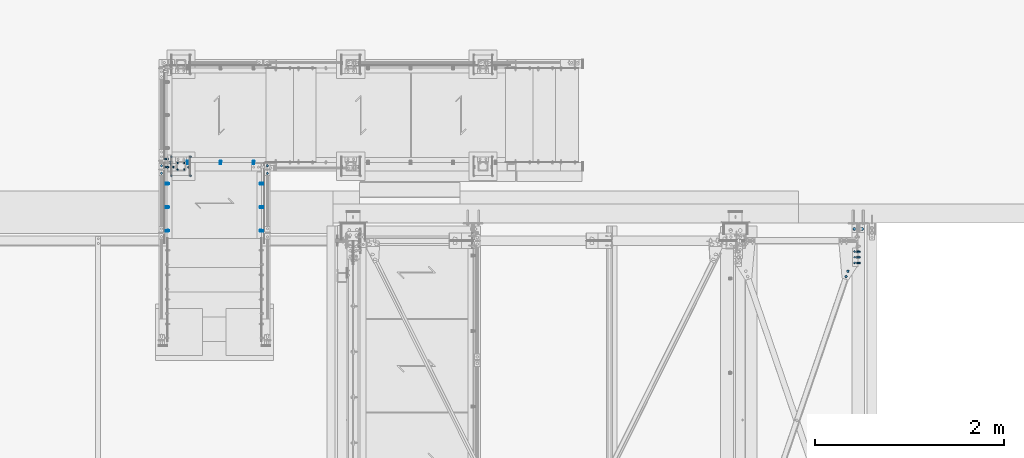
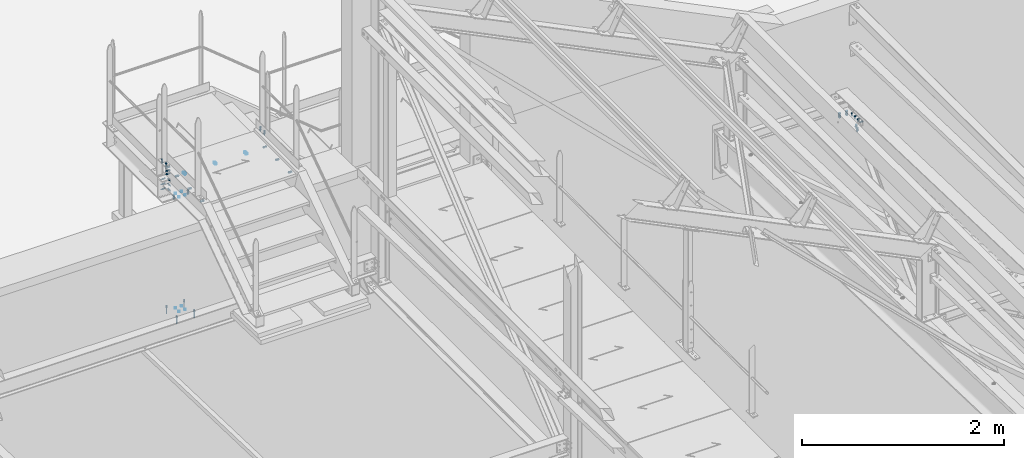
# One storey, part 198 of 362: 16 mechanical fasteners.
"""IFC2X3 building model written with IfcOpenShell, lengths in millimetres."""

from ifc_helpers import new_model, si_unit, frame, frame_2d, origin_with_axes, origin_2d_with_axis, place, context, subcontext, project, spatial, polyline, circle_curve, parameter, trimmed, segment, composite_curve, circle, outline, extrude, source, transform, mapped, material, type_object, element, save


model = new_model("IFC2X3")

# Units and contexts
model_context = context("Model", 3, precision=1e-05, world=origin_with_axes())
body_context = subcontext(model_context, "Body", "Model", "MODEL_VIEW")
ifc_project = project(units=[si_unit("LENGTHUNIT", "METRE", prefix="MILLI"), si_unit("AREAUNIT", "SQUARE_METRE"), si_unit("VOLUMEUNIT", "CUBIC_METRE"), si_unit("MASSUNIT", "GRAM", prefix="KILO"), si_unit("TIMEUNIT", "SECOND"), si_unit("PLANEANGLEUNIT", "RADIAN"), si_unit("SOLIDANGLEUNIT", "STERADIAN"), si_unit("THERMODYNAMICTEMPERATUREUNIT", "DEGREE_CELSIUS"), si_unit("LUMINOUSINTENSITYUNIT", "LUMEN")], contexts=[model_context])

# Site, building, storey
site_placement = place(None, origin_with_axes())
site = spatial("IfcSite", under=ifc_project, at=site_placement, Name="Undefined", CompositionType="ELEMENT")
building_placement = place(site_placement, origin_with_axes())
building = spatial("IfcBuilding", under=site, at=building_placement, Name="Undefined", CompositionType="ELEMENT")
storey_placement = place(building_placement, origin_with_axes())
storey = spatial("IfcBuildingStorey", under=building, at=storey_placement, Name="Undefined", CompositionType="ELEMENT", Elevation=0.0)

# Mechanical fasteners
ifc_material_1 = material(Name="6.8")
mechanical_fastener_type = type_object("IfcMechanicalFastenerType", Name="Bolt assembly")
shared_shape_1 = source(origin_with_axes(), body_context, "Body", "SweptSolid", [
    extrude(circle(Radius=7.0, at=origin_2d_with_axis()), frame((0.0, -12.0, 0.0), z_axis=(0.0, 1.0, 0.0), x_axis=(1.0, 0.0, 0.0)), (0.0, 0.0, 1.0), 12.1),
])
mechanical_fastener_1_placement = place(storey_placement, frame((32455.0000000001, 16024.9999136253, 7050.0), z_axis=(1.0, 0.0, 0.0), x_axis=(0.0, -1.0, 0.0)))
element("IfcMechanicalFastener", 1, at=mechanical_fastener_1_placement, inside=storey, type_object=mechanical_fastener_type, material=ifc_material_1, Name="Bolt assembly", NominalDiameter=12.0, NominalLength=12.0, context=body_context, shape_type="MappedRepresentation", body=[
    mapped(shared_shape_1, transform((0.0, 0.0, 35.0))),
    mapped(shared_shape_1, transform((70.0, 0.0, 35.0))),
    mapped(shared_shape_1, transform((0.0, 0.0, -35.0))),
    mapped(shared_shape_1, transform((70.0, 0.0, -35.0))),
])
ifc_material_2 = material(Name="HILTI-HSA-R")
shared_shape_2 = source(origin_with_axes(), body_context, "Body", "SweptSolid", [
    extrude(circle(Radius=7.0, at=origin_2d_with_axis()), frame((0.0, -12.0, 0.0), z_axis=(0.0, 1.0, 0.0), x_axis=(1.0, 0.0, 0.0)), (0.0, 0.0, 1.0), 12.1),
    extrude(outline(polyline([(10.39230484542, 0.0), (5.19615242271, 9.00000000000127), (-5.19615242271, 9.00000000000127), (-10.39230484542, 0.0), (-5.19615242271, -9.00000000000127), (5.19615242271, -9.00000000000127), (10.39230484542, 0.0)])), frame((0.0, -19.92, 0.0), z_axis=(0.0, 1.0, 0.0), x_axis=(1.0, 0.0, 0.0)), (0.0, 0.0, 1.0), 7.92),
    extrude(circle(Radius=6.0, at=origin_2d_with_axis()), frame((0.0, -12.0, 0.0), z_axis=(0.0, 1.0, 0.0), x_axis=(1.0, 0.0, 0.0)), (0.0, 0.0, 1.0), 89.2),
    extrude(outline(polyline([(11.5008173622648, 0.0), (5.7504086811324, 9.96000000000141), (-5.7504086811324, 9.96000000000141), (-11.5008173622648, 0.0), (-5.7504086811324, -9.96000000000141), (5.7504086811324, -9.96000000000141), (11.5008173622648, 0.0)])), frame((0.0, 0.0, 0.0), z_axis=(0.0, 1.0, 0.0), x_axis=(1.0, 0.0, 0.0)), (0.0, 0.0, 1.0), 7.92),
])
mechanical_fastener_2_placement = place(storey_placement, frame((32455.0000000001, 16089.9999136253, 7050.0), z_axis=(1.0, 0.0, 0.0), x_axis=(0.0, -1.0, 0.0)))
element("IfcMechanicalFastener", 2, at=mechanical_fastener_2_placement, inside=storey, type_object=mechanical_fastener_type, material=ifc_material_2, Name="Bolt assembly", NominalDiameter=12.0, NominalLength=89.1999969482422, context=body_context, shape_type="MappedRepresentation", body=[
    mapped(shared_shape_2, transform((0.0, 0.0, 100.0))),
    mapped(shared_shape_2, transform((200.0, 0.0, 100.0))),
    mapped(shared_shape_2, transform((0.0, 0.0, -100.0))),
    mapped(shared_shape_2, transform((200.0, 0.0, -100.0))),
])
ifc_material_3 = material(Name="8.8-SB-GALVA")
shared_shape_3 = source(origin_with_axes(), body_context, "Body", "SweptSolid", [
    extrude(circle(Radius=7.0, at=origin_2d_with_axis()), frame((0.0, -0.100011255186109, 0.0), z_axis=(0.0, 1.0, 0.0), x_axis=(1.0, 0.0, 0.0)), (0.0, 0.0, 1.0), 12.9),
    extrude(outline(composite_curve([segment(polyline([(-7.0, 7.0), (7.0, 7.0)]), True, "CONTINUOUS"), segment(trimmed(circle_curve(frame_2d((7.0, 0.0), x_axis=(0.0, 1.0)), 7.0), [parameter(0.0)], [parameter(3.14159265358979)], False, "PARAMETER"), True, "CONTINUOUS"), segment(polyline([(7.0, -7.0), (-7.0, -7.0)]), True, "CONTINUOUS"), segment(trimmed(circle_curve(frame_2d((-7.0, 0.0), x_axis=(0.0, -1.0)), 7.0), [parameter(0.0)], [parameter(3.14159265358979)], False, "PARAMETER"), True, "DISCONTINUOUS")], self_intersect=False)), frame((0.0, -9.9, 0.0), z_axis=(0.0, 1.0, 0.0), x_axis=(1.0, 0.0, 0.0)), (0.0, 0.0, 1.0), 10.0),
    extrude(outline(polyline([(10.39230484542, 0.0), (5.19615242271, 9.00000000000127), (-5.19615242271, 9.00000000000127), (-10.39230484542, 0.0), (-5.19615242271, -9.00000000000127), (5.19615242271, -9.00000000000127), (10.39230484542, 0.0)])), frame((0.0, -21.88, 0.0), z_axis=(0.0, 1.0, 0.0), x_axis=(1.0, 0.0, 0.0)), (0.0, 0.0, 1.0), 7.92),
    extrude(circle(Radius=6.0, at=origin_2d_with_axis()), frame((0.0, -13.96, 0.0), z_axis=(0.0, 1.0, 0.0), x_axis=(1.0, 0.0, 0.0)), (0.0, 0.0, 1.0), 50.0),
    extrude(circle(Radius=10.8, at=origin_2d_with_axis()), frame((0.0, -13.96, 0.0), z_axis=(0.0, 1.0, 0.0), x_axis=(1.0, 0.0, 0.0)), (0.0, 0.0, 1.0), 3.96),
    extrude(outline(polyline([(11.5008173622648, 0.0), (5.7504086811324, 9.96000000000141), (-5.7504086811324, 9.96000000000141), (-11.5008173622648, 0.0), (-5.7504086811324, -9.96000000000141), (5.7504086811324, -9.96000000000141), (11.5008173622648, 0.0)])), frame((0.0, 12.7987010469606, 0.0), z_axis=(0.0, 1.0, 0.0), x_axis=(1.0, 0.0, 0.0)), (0.0, 0.0, 1.0), 7.92),
])
mechanical_fastener_3_placement = place(storey_placement, frame((32249.9863365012, 15915.003622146, 8910.0), z_axis=(-1.0, 0.0, 0.0), x_axis=(0.0, 1.0, 0.0)))
element("IfcMechanicalFastener", 3, at=mechanical_fastener_3_placement, inside=storey, type_object=mechanical_fastener_type, material=ifc_material_3, Name="Bolt assembly", NominalDiameter=12.0, NominalLength=50.0, context=body_context, shape_type="MappedRepresentation", body=[
    mapped(shared_shape_3, transform((0.0, 0.0, 0.0))),
    mapped(shared_shape_3, transform((80.0, 0.0, 0.0))),
])
shared_shape_4 = source(origin_with_axes(), body_context, "Body", "SweptSolid", [
    extrude(circle(Radius=7.0, at=origin_2d_with_axis()), frame((0.0, -0.100011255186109, 0.0), z_axis=(0.0, 1.0, 0.0), x_axis=(1.0, 0.0, 0.0)), (0.0, 0.0, 1.0), 12.9),
    extrude(outline(composite_curve([segment(polyline([(-7.0, 7.0), (7.0, 7.0)]), True, "CONTINUOUS"), segment(trimmed(circle_curve(frame_2d((7.0, 0.0), x_axis=(0.0, 1.0)), 7.0), [parameter(0.0)], [parameter(3.14159265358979)], False, "PARAMETER"), True, "CONTINUOUS"), segment(polyline([(7.0, -7.0), (-7.0, -7.0)]), True, "CONTINUOUS"), segment(trimmed(circle_curve(frame_2d((-7.0, 0.0), x_axis=(0.0, -1.0)), 7.0), [parameter(0.0)], [parameter(3.14159265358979)], False, "PARAMETER"), True, "DISCONTINUOUS")], self_intersect=False)), frame((0.0, -9.9, 0.0), z_axis=(0.0, 1.0, 0.0), x_axis=(1.0, 0.0, 0.0)), (0.0, 0.0, 1.0), 10.0),
    extrude(outline(polyline([(10.39230484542, 0.0), (5.19615242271, 9.00000000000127), (-5.19615242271, 9.00000000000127), (-10.39230484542, 0.0), (-5.19615242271, -9.00000000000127), (5.19615242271, -9.00000000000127), (10.39230484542, 0.0)])), frame((0.0, -21.88, 0.0), z_axis=(0.0, 1.0, 0.0), x_axis=(1.0, 0.0, 0.0)), (0.0, 0.0, 1.0), 7.92),
    extrude(circle(Radius=6.0, at=origin_2d_with_axis()), frame((0.0, -13.96, 0.0), z_axis=(0.0, 1.0, 0.0), x_axis=(1.0, 0.0, 0.0)), (0.0, 0.0, 1.0), 50.0),
    extrude(circle(Radius=10.8, at=origin_2d_with_axis()), frame((0.0, -13.96, 0.0), z_axis=(0.0, 1.0, 0.0), x_axis=(1.0, 0.0, 0.0)), (0.0, 0.0, 1.0), 3.96),
    extrude(outline(polyline([(11.5008173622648, 0.0), (5.7504086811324, 9.96000000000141), (-5.7504086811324, 9.96000000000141), (-11.5008173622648, 0.0), (-5.7504086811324, -9.96000000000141), (5.7504086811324, -9.96000000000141), (11.5008173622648, 0.0)])), frame((0.0, 12.8009436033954, 0.0), z_axis=(0.0, 1.0, 0.0), x_axis=(1.0, 0.0, 0.0)), (0.0, 0.0, 1.0), 7.92),
])
mechanical_fastener_4_placement = place(storey_placement, frame((33369.9936634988, 15914.9996684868, 8910.0), z_axis=(-1.0, 0.0, 0.0), x_axis=(0.0, 1.0, 0.0)))
element("IfcMechanicalFastener", 4, at=mechanical_fastener_4_placement, inside=storey, type_object=mechanical_fastener_type, material=ifc_material_3, Name="Bolt assembly", NominalDiameter=12.0, NominalLength=50.0, context=body_context, shape_type="MappedRepresentation", body=[
    mapped(shared_shape_4, transform((0.0, 0.0, 0.0))),
    mapped(shared_shape_4, transform((80.0, 0.0, 0.0))),
])
shared_shape_5 = source(origin_with_axes(), body_context, "Body", "SweptSolid", [
    extrude(circle(Radius=7.0, at=origin_2d_with_axis()), frame((0.0, 0.0, 0.0), z_axis=(0.0, 1.0, 0.0), x_axis=(1.0, 0.0, 0.0)), (0.0, 0.0, 1.0), 8.1),
])
mechanical_fastener_5_placement = place(storey_placement, frame((32455.0000000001, 16024.9999136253, 8440.00011661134), z_axis=(1.0, 0.0, 0.0), x_axis=(0.0, -1.0, 0.0)))
element("IfcMechanicalFastener", 5, at=mechanical_fastener_5_placement, inside=storey, type_object=mechanical_fastener_type, material=ifc_material_1, Name="Bolt assembly", NominalDiameter=12.0, NominalLength=8.0, context=body_context, shape_type="MappedRepresentation", body=[
    mapped(shared_shape_5, transform((0.0, 0.0, 35.0))),
    mapped(shared_shape_5, transform((70.0, 0.0, 35.0))),
    mapped(shared_shape_5, transform((0.0, 0.0, -35.0))),
    mapped(shared_shape_5, transform((70.0, 0.0, -35.0))),
])
shared_shape_6 = source(origin_with_axes(), body_context, "Body", "SweptSolid", [
    extrude(circle(Radius=7.0, at=origin_2d_with_axis()), frame((0.0, -0.0998569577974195, 0.0), z_axis=(0.0, 1.0, 0.0), x_axis=(1.0, 0.0, 0.0)), (0.0, 0.0, 1.0), 10.1),
    extrude(circle(Radius=7.0, at=origin_2d_with_axis()), frame((0.0, -5.8999542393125, 0.0), z_axis=(0.0, 1.0, 0.0), x_axis=(1.0, 0.0, 0.0)), (0.0, 0.0, 1.0), 6.0),
    extrude(outline(polyline([(10.39230484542, 0.0), (5.19615242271, 9.00000000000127), (-5.19615242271, 9.00000000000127), (-10.39230484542, 0.0), (-5.19615242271, -9.00000000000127), (5.19615242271, -9.00000000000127), (10.39230484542, 0.0)])), frame((0.0, -13.9199542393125, 0.0), z_axis=(0.0, 1.0, 0.0), x_axis=(1.0, 0.0, 0.0)), (0.0, 0.0, 1.0), 7.92),
    extrude(circle(Radius=6.0, at=origin_2d_with_axis()), frame((0.0, -5.9999542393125, 0.0), z_axis=(0.0, 1.0, 0.0), x_axis=(1.0, 0.0, 0.0)), (0.0, 0.0, 1.0), 40.0),
    extrude(outline(polyline([(11.5008173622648, 0.0), (5.7504086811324, 9.96000000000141), (-5.7504086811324, 9.96000000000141), (-11.5008173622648, 0.0), (-5.7504086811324, -9.96000000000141), (5.7504086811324, -9.96000000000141), (11.5008173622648, 0.0)])), frame((0.0, 10.0001873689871, 0.0), z_axis=(0.0, 1.0, 0.0), x_axis=(1.0, 0.0, 0.0)), (0.0, 0.0, 1.0), 7.92),
])
mechanical_fastener_6_placement = place(storey_placement, frame((32310.0061849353, 16064.9933714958, 8570.0), z_axis=(0.0, 0.0, -1.0), x_axis=(0.0, -1.0, 0.0)))
element("IfcMechanicalFastener", 6, at=mechanical_fastener_6_placement, inside=storey, type_object=mechanical_fastener_type, material=ifc_material_3, Name="Bolt assembly", NominalDiameter=12.0, NominalLength=40.0, context=body_context, shape_type="MappedRepresentation", body=[
    mapped(shared_shape_6, transform((0.0, 0.0, -60.0))),
    mapped(shared_shape_6, transform((0.0, 0.0, 0.0))),
    mapped(shared_shape_6, transform((0.0, 0.0, 60.0))),
])
shared_shape_7 = source(origin_with_axes(), body_context, "Body", "SweptSolid", [
    extrude(circle(Radius=7.0, at=origin_2d_with_axis()), frame((0.0, -14.9176290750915, 0.0), z_axis=(0.0, 1.0, 0.0), x_axis=(1.0, 0.0, 0.0)), (0.0, 0.0, 1.0), 10.0),
    extrude(circle(Radius=7.0, at=origin_2d_with_axis()), frame((0.0, -5.09380520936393, 0.0), z_axis=(0.0, 1.0, 0.0), x_axis=(1.0, 0.0, 0.0)), (0.0, 0.0, 1.0), 5.1),
    extrude(outline(polyline([(10.39230484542, 0.0), (5.19615242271, 9.00000000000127), (-5.19615242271, 9.00000000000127), (-10.39230484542, 0.0), (-5.19615242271, -9.00000000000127), (5.19615242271, -9.00000000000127), (10.39230484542, 0.0)])), frame((0.0, -22.9376290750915, 0.0), z_axis=(0.0, 1.0, 0.0), x_axis=(1.0, 0.0, 0.0)), (0.0, 0.0, 1.0), 7.92),
    extrude(circle(Radius=6.0, at=origin_2d_with_axis()), frame((0.0, -15.0176290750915, 0.0), z_axis=(0.0, 1.0, 0.0), x_axis=(1.0, 0.0, 0.0)), (0.0, 0.0, 1.0), 30.0),
    extrude(outline(polyline([(11.5008173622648, 0.0), (5.7504086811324, 9.96000000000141), (-5.7504086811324, 9.96000000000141), (-11.5008173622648, 0.0), (-5.7504086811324, -9.96000000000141), (5.7504086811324, -9.96000000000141), (11.5008173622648, 0.0)])), frame((0.0, 0.00619479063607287, 0.0), z_axis=(0.0, 1.0, 0.0), x_axis=(1.0, 0.0, 0.0)), (0.0, 0.0, 1.0), 7.92),
])
mechanical_fastener_7_placement = place(storey_placement, frame((33304.9876275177, 15555.0058468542, 8820.0), z_axis=(0.0, -1.0, 0.0), x_axis=(0.0, 0.0, 1.0)))
element("IfcMechanicalFastener", 7, at=mechanical_fastener_7_placement, inside=storey, type_object=mechanical_fastener_type, material=ifc_material_3, Name="Bolt assembly", NominalDiameter=12.0, NominalLength=30.0, context=body_context, shape_type="MappedRepresentation", body=[
    mapped(shared_shape_7, transform((0.0, 0.0, -250.0))),
    mapped(shared_shape_7, transform((0.0, 0.0, 0.0))),
    mapped(shared_shape_7, transform((0.0, 0.0, 250.0))),
])
shared_shape_8 = source(origin_with_axes(), body_context, "Body", "SweptSolid", [
    extrude(circle(Radius=7.0, at=origin_2d_with_axis()), frame((0.0, -14.8962968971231, 0.0), z_axis=(0.0, 1.0, 0.0), x_axis=(1.0, 0.0, 0.0)), (0.0, 0.0, 1.0), 10.0),
    extrude(circle(Radius=7.0, at=origin_2d_with_axis()), frame((0.0, -5.09380520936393, 0.0), z_axis=(0.0, 1.0, 0.0), x_axis=(1.0, 0.0, 0.0)), (0.0, 0.0, 1.0), 5.1),
    extrude(outline(polyline([(10.39230484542, 0.0), (5.19615242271, 9.00000000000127), (-5.19615242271, 9.00000000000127), (-10.39230484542, 0.0), (-5.19615242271, -9.00000000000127), (5.19615242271, -9.00000000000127), (10.39230484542, 0.0)])), frame((0.0, -22.9162968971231, 0.0), z_axis=(0.0, 1.0, 0.0), x_axis=(1.0, 0.0, 0.0)), (0.0, 0.0, 1.0), 7.92),
    extrude(circle(Radius=6.0, at=origin_2d_with_axis()), frame((0.0, -14.9962968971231, 0.0), z_axis=(0.0, 1.0, 0.0), x_axis=(1.0, 0.0, 0.0)), (0.0, 0.0, 1.0), 30.0),
    extrude(outline(polyline([(11.5008173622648, 0.0), (5.7504086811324, 9.96000000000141), (-5.7504086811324, 9.96000000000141), (-11.5008173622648, 0.0), (-5.7504086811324, -9.96000000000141), (5.7504086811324, -9.96000000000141), (11.5008173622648, 0.0)])), frame((0.0, 0.00619479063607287, 0.0), z_axis=(0.0, 1.0, 0.0), x_axis=(1.0, 0.0, 0.0)), (0.0, 0.0, 1.0), 7.92),
])
mechanical_fastener_8_placement = place(storey_placement, frame((32314.9999903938, 15555.0058468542, 8820.0), z_axis=(0.0, 1.0, 0.0), x_axis=(0.0, 0.0, 1.0)))
element("IfcMechanicalFastener", 8, at=mechanical_fastener_8_placement, inside=storey, type_object=mechanical_fastener_type, material=ifc_material_3, Name="Bolt assembly", NominalDiameter=12.0, NominalLength=30.0, context=body_context, shape_type="MappedRepresentation", body=[
    mapped(shared_shape_8, transform((0.0, 0.0, -250.0))),
    mapped(shared_shape_8, transform((0.0, 0.0, 0.0))),
    mapped(shared_shape_8, transform((0.0, 0.0, 250.0))),
])
shared_shape_9 = source(origin_with_axes(), body_context, "Body", "SweptSolid", [
    extrude(circle(Radius=7.0, at=origin_2d_with_axis()), frame((0.0, -13.4994974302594, 0.0), z_axis=(0.0, 1.0, 0.0), x_axis=(1.0, 0.0, 0.0)), (0.0, 0.0, 1.0), 13.6),
    extrude(circle(Radius=7.0, at=origin_2d_with_axis()), frame((0.0, -0.10007666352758, 0.0), z_axis=(0.0, 1.0, 0.0), x_axis=(1.0, 0.0, 0.0)), (0.0, 0.0, 1.0), 8.1),
    extrude(outline(polyline([(10.39230484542, 0.0), (5.19615242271, 9.00000000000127), (-5.19615242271, 9.00000000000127), (-10.39230484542, 0.0), (-5.19615242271, -9.00000000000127), (5.19615242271, -9.00000000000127), (10.39230484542, 0.0)])), frame((0.0, -21.5194974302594, 0.0), z_axis=(0.0, 1.0, 0.0), x_axis=(1.0, 0.0, 0.0)), (0.0, 0.0, 1.0), 7.92),
    extrude(circle(Radius=6.0, at=origin_2d_with_axis()), frame((0.0, -13.5994974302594, 0.0), z_axis=(0.0, 1.0, 0.0), x_axis=(1.0, 0.0, 0.0)), (0.0, 0.0, 1.0), 40.0),
    extrude(outline(polyline([(11.5008173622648, 0.0), (5.7504086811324, 9.96000000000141), (-5.7504086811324, 9.96000000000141), (-11.5008173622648, 0.0), (-5.7504086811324, -9.96000000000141), (5.7504086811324, -9.96000000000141), (11.5008173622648, 0.0)])), frame((0.0, 7.99992914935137, 0.0), z_axis=(0.0, 1.0, 0.0), x_axis=(1.0, 0.0, 0.0)), (0.0, 0.0, 1.0), 7.92),
])
mechanical_fastener_9_placement = place(storey_placement, frame((32455.0000000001, 15979.9999136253, 8440.00004576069), z_axis=(-1.0, 0.0, 0.0), x_axis=(0.0, 1.0, 0.0)))
element("IfcMechanicalFastener", 9, at=mechanical_fastener_9_placement, inside=storey, type_object=mechanical_fastener_type, material=ifc_material_3, Name="Bolt assembly", NominalDiameter=12.0, NominalLength=40.0, context=body_context, shape_type="MappedRepresentation", body=[
    mapped(shared_shape_9, transform((0.0, 0.0, 80.0))),
    mapped(shared_shape_9, transform((0.0, 0.0, -80.0))),
])
shared_shape_10 = source(origin_with_axes(), body_context, "Body", "SweptSolid", [
    extrude(circle(Radius=7.0, at=origin_2d_with_axis()), frame((0.0, -9.90063770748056, 0.0), z_axis=(0.0, 1.0, 0.0), x_axis=(1.0, 0.0, 0.0)), (0.0, 0.0, 1.0), 10.0),
    extrude(circle(Radius=7.0, at=origin_2d_with_axis()), frame((0.0, -0.100011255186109, 0.0), z_axis=(0.0, 1.0, 0.0), x_axis=(1.0, 0.0, 0.0)), (0.0, 0.0, 1.0), 5.1),
    extrude(outline(polyline([(10.39230484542, 0.0), (5.19615242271, 9.00000000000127), (-5.19615242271, 9.00000000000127), (-10.39230484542, 0.0), (-5.19615242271, -9.00000000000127), (5.19615242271, -9.00000000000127), (10.39230484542, 0.0)])), frame((0.0, -17.9206377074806, 0.0), z_axis=(0.0, 1.0, 0.0), x_axis=(1.0, 0.0, 0.0)), (0.0, 0.0, 1.0), 7.92),
    extrude(circle(Radius=6.0, at=origin_2d_with_axis()), frame((0.0, -10.0006377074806, 0.0), z_axis=(0.0, 1.0, 0.0), x_axis=(1.0, 0.0, 0.0)), (0.0, 0.0, 1.0), 30.0),
    extrude(outline(polyline([(11.5008173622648, 0.0), (5.7504086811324, 9.96000000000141), (-5.7504086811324, 9.96000000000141), (-11.5008173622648, 0.0), (-5.7504086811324, -9.96000000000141), (5.7504086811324, -9.96000000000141), (11.5008173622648, 0.0)])), frame((0.0, 5.0, 0.0), z_axis=(0.0, 1.0, 0.0), x_axis=(1.0, 0.0, 0.0)), (0.0, 0.0, 1.0), 7.92),
])
mechanical_fastener_10_placement = place(storey_placement, frame((32875.0003754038, 16030.0062102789, 8640.0), z_axis=(-1.0, 0.0, 0.0), x_axis=(0.0, 0.0, 1.0)))
element("IfcMechanicalFastener", 10, at=mechanical_fastener_10_placement, inside=storey, type_object=mechanical_fastener_type, material=ifc_material_3, Name="Bolt assembly", NominalDiameter=12.0, NominalLength=30.0, context=body_context, shape_type="MappedRepresentation", body=[
    mapped(shared_shape_10, transform((0.0, 0.0, 350.0))),
    mapped(shared_shape_10, transform((0.0, 0.0, 0.0))),
    mapped(shared_shape_10, transform((0.0, 0.0, -350.0))),
])
shared_shape_11 = source(origin_with_axes(), body_context, "Body", "SweptSolid", [
    extrude(circle(Radius=7.0, at=origin_2d_with_axis()), frame((0.0, -0.0962673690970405, 0.0), z_axis=(0.0, 1.0, 0.0), x_axis=(1.0, 0.0, 0.0)), (0.0, 0.0, 1.0), 10.1),
    extrude(outline(composite_curve([segment(polyline([(7.0, 7.0), (7.0, -7.0)]), True, "CONTINUOUS"), segment(trimmed(circle_curve(frame_2d((0.0, -7.0), x_axis=(1.0, 0.0)), 7.0), [parameter(0.0)], [parameter(3.14159265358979)], False, "PARAMETER"), True, "CONTINUOUS"), segment(polyline([(-7.0, -7.0), (-7.0, 7.0)]), True, "CONTINUOUS"), segment(trimmed(circle_curve(frame_2d((0.0, 7.0), x_axis=(-1.0, 0.0)), 7.0), [parameter(0.0)], [parameter(3.14159265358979)], False, "PARAMETER"), True, "DISCONTINUOUS")], self_intersect=False)), frame((0.0, -7.9, 0.0), z_axis=(0.0, 1.0, 0.0), x_axis=(1.0, 0.0, 0.0)), (0.0, 0.0, 1.0), 8.0),
    extrude(outline(polyline([(10.39230484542, 0.0), (5.19615242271, 9.00000000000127), (-5.19615242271, 9.00000000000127), (-10.39230484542, 0.0), (-5.19615242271, -9.00000000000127), (5.19615242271, -9.00000000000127), (10.39230484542, 0.0)])), frame((0.0, -19.88, 0.0), z_axis=(0.0, 1.0, 0.0), x_axis=(1.0, 0.0, 0.0)), (0.0, 0.0, 1.0), 7.92),
    extrude(circle(Radius=6.0, at=origin_2d_with_axis()), frame((0.0, -11.96, 0.0), z_axis=(0.0, 1.0, 0.0), x_axis=(1.0, 0.0, 0.0)), (0.0, 0.0, 1.0), 40.0),
    extrude(circle(Radius=10.8, at=origin_2d_with_axis()), frame((0.0, -11.96, 0.0), z_axis=(0.0, 1.0, 0.0), x_axis=(1.0, 0.0, 0.0)), (0.0, 0.0, 1.0), 3.96),
    extrude(outline(polyline([(11.5008173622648, 0.0), (5.7504086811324, 9.96000000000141), (-5.7504086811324, 9.96000000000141), (-11.5008173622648, 0.0), (-5.7504086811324, -9.96000000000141), (5.7504086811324, -9.96000000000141), (11.5008173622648, 0.0)])), frame((0.0, 10.0037326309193, 0.0), z_axis=(0.0, 1.0, 0.0), x_axis=(1.0, 0.0, 0.0)), (0.0, 0.0, 1.0), 7.92),
])
mechanical_fastener_11_placement = place(storey_placement, frame((32310.006186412, 15980.0058471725, 8820.0), z_axis=(0.0, 1.0, 0.0), x_axis=(0.0, 0.0, -1.0)))
element("IfcMechanicalFastener", 11, at=mechanical_fastener_11_placement, inside=storey, type_object=mechanical_fastener_type, material=ifc_material_3, Name="Bolt assembly", NominalDiameter=12.0, NominalLength=40.0, context=body_context, shape_type="MappedRepresentation", body=[
    mapped(shared_shape_11, transform((0.0, 0.0, 0.0))),
    mapped(shared_shape_11, transform((40.0, 0.0, 0.0))),
    mapped(shared_shape_11, transform((80.0, 0.0, 0.0))),
])
shared_shape_12 = source(origin_with_axes(), body_context, "Body", "SweptSolid", [
    extrude(circle(Radius=7.0, at=origin_2d_with_axis()), frame((0.0, -0.0997388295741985, 0.0), z_axis=(0.0, 1.0, 0.0), x_axis=(1.0, 0.0, 0.0)), (0.0, 0.0, 1.0), 10.1),
    extrude(circle(Radius=7.0, at=origin_2d_with_axis()), frame((0.0, -5.88716119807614, 0.0), z_axis=(0.0, 1.0, 0.0), x_axis=(1.0, 0.0, 0.0)), (0.0, 0.0, 1.0), 6.0),
    extrude(outline(polyline([(10.39230484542, 0.0), (5.19615242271, 9.00000000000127), (-5.19615242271, 9.00000000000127), (-10.39230484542, 0.0), (-5.19615242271, -9.00000000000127), (5.19615242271, -9.00000000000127), (10.39230484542, 0.0)])), frame((0.0, -13.9071611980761, 0.0), z_axis=(0.0, 1.0, 0.0), x_axis=(1.0, 0.0, 0.0)), (0.0, 0.0, 1.0), 7.92),
    extrude(circle(Radius=6.0, at=origin_2d_with_axis()), frame((0.0, -5.98716119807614, 0.0), z_axis=(0.0, 1.0, 0.0), x_axis=(1.0, 0.0, 0.0)), (0.0, 0.0, 1.0), 40.0),
    extrude(outline(polyline([(11.5008173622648, 0.0), (5.7504086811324, 9.96000000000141), (-5.7504086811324, 9.96000000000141), (-11.5008173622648, 0.0), (-5.7504086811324, -9.96000000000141), (5.7504086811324, -9.96000000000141), (11.5008173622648, 0.0)])), frame((0.0, 10.0002611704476, 0.0), z_axis=(0.0, 1.0, 0.0), x_axis=(1.0, 0.0, 0.0)), (0.0, 0.0, 1.0), 7.92),
])
mechanical_fastener_12_placement = place(storey_placement, frame((32345.0061849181, 16030.0062102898, 8570.0), z_axis=(0.0, 0.0, 1.0), x_axis=(-1.0, 0.0, 0.0)))
element("IfcMechanicalFastener", 12, at=mechanical_fastener_12_placement, inside=storey, type_object=mechanical_fastener_type, material=ifc_material_3, Name="Bolt assembly", NominalDiameter=12.0, NominalLength=40.0, context=body_context, shape_type="MappedRepresentation", body=[
    mapped(shared_shape_12, transform((0.0, 0.0, -60.0))),
    mapped(shared_shape_12, transform((0.0, 0.0, 0.0))),
    mapped(shared_shape_12, transform((0.0, 0.0, 60.0))),
])
ifc_material_4 = material(Name="8.8-SB-ZINGUE")
shared_shape_13 = source(origin_with_axes(), body_context, "Body", "SweptSolid", [
    extrude(circle(Radius=9.0, at=origin_2d_with_axis()), frame((0.0, -8.90079772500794, 0.0), z_axis=(0.0, 1.0, 0.0), x_axis=(1.0, 0.0, 0.0)), (0.0, 0.0, 1.0), 6.0),
    extrude(circle(Radius=9.0, at=origin_2d_with_axis()), frame((0.0, -3.09999932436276, 0.0), z_axis=(0.0, 1.0, 0.0), x_axis=(1.0, 0.0, 0.0)), (0.0, 0.0, 1.0), 6.1),
    extrude(outline(polyline([(13.85640646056, 0.0), (6.92820323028, 12.0000000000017), (-6.92820323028, 12.0000000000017), (-13.85640646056, 0.0), (-6.92820323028, -12.0000000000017), (6.92820323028, -12.0000000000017), (13.85640646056, 0.0)])), frame((0.0, -19.5607977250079, 0.0), z_axis=(0.0, 1.0, 0.0), x_axis=(1.0, 0.0, 0.0)), (0.0, 0.0, 1.0), 10.56),
    extrude(circle(Radius=8.0, at=origin_2d_with_axis()), frame((0.0, -9.00079772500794, 0.0), z_axis=(0.0, 1.0, 0.0), x_axis=(1.0, 0.0, 0.0)), (0.0, 0.0, 1.0), 40.0),
    extrude(outline(polyline([(15.3344231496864, 0.0), (7.6672115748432, 13.2800000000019), (-7.6672115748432, 13.2800000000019), (-15.3344231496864, 0.0), (-7.6672115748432, -13.2800000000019), (7.6672115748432, -13.2800000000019), (15.3344231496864, 0.0)])), frame((0.0, 3.00000067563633, 0.0), z_axis=(0.0, 1.0, 0.0), x_axis=(1.0, 0.0, 0.0)), (0.0, 0.0, 1.0), 10.56),
])
mechanical_fastener_13_placement = place(storey_placement, frame((39520.7300324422, 14878.6153358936, 7459.35995271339), z_axis=(0.946212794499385, -0.323385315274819, 0.0101629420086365), x_axis=(-0.323544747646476, -0.945745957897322, 0.0297216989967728)))
element("IfcMechanicalFastener", 13, at=mechanical_fastener_13_placement, inside=storey, type_object=mechanical_fastener_type, material=ifc_material_4, Name="Bolt assembly", NominalDiameter=16.0, NominalLength=40.0, context=body_context, shape_type="MappedRepresentation", body=[
    mapped(shared_shape_13, transform((0.0, 0.0, 0.0))),
    mapped(shared_shape_13, transform((60.0, 0.0, 0.0))),
])
shared_shape_14 = source(origin_with_axes(), body_context, "Body", "SweptSolid", [
    extrude(circle(Radius=7.0, at=origin_2d_with_axis()), frame((0.0, -0.100011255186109, 0.0), z_axis=(0.0, 1.0, 0.0), x_axis=(1.0, 0.0, 0.0)), (0.0, 0.0, 1.0), 6.1),
    extrude(circle(Radius=7.0, at=origin_2d_with_axis()), frame((0.0, -5.8999542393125, 0.0), z_axis=(0.0, 1.0, 0.0), x_axis=(1.0, 0.0, 0.0)), (0.0, 0.0, 1.0), 6.0),
    extrude(outline(polyline([(10.39230484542, 0.0), (5.19615242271, 9.00000000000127), (-5.19615242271, 9.00000000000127), (-10.39230484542, 0.0), (-5.19615242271, -9.00000000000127), (5.19615242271, -9.00000000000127), (10.39230484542, 0.0)])), frame((0.0, -13.9199542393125, 0.0), z_axis=(0.0, 1.0, 0.0), x_axis=(1.0, 0.0, 0.0)), (0.0, 0.0, 1.0), 7.92),
    extrude(circle(Radius=6.0, at=origin_2d_with_axis()), frame((0.0, -5.9999542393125, 0.0), z_axis=(0.0, 1.0, 0.0), x_axis=(1.0, 0.0, 0.0)), (0.0, 0.0, 1.0), 30.0),
    extrude(outline(polyline([(11.5008173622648, 0.0), (5.7504086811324, 9.96000000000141), (-5.7504086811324, 9.96000000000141), (-11.5008173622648, 0.0), (-5.7504086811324, -9.96000000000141), (5.7504086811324, -9.96000000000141), (11.5008173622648, 0.0)])), frame((0.0, 6.0, 0.0), z_axis=(0.0, 1.0, 0.0), x_axis=(1.0, 0.0, 0.0)), (0.0, 0.0, 1.0), 7.92),
])
mechanical_fastener_14_placement = place(storey_placement, frame((39591.4999999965, 15026.1261174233, 7451.72274157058), z_axis=(3.14103090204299e-11, 0.999506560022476, -0.0314107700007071), x_axis=(1.0, 0.0, 0.0)))
element("IfcMechanicalFastener", 14, at=mechanical_fastener_14_placement, inside=storey, type_object=mechanical_fastener_type, material=ifc_material_4, Name="Bolt assembly", NominalDiameter=12.0, NominalLength=30.0, context=body_context, shape_type="MappedRepresentation", body=[
    mapped(shared_shape_14, transform((0.0, 0.0, -60.0))),
    mapped(shared_shape_14, transform((0.0, 0.0, 0.0))),
    mapped(shared_shape_14, transform((0.0, 0.0, 60.0))),
])
shared_shape_15 = source(origin_with_axes(), body_context, "Body", "SweptSolid", [
    extrude(circle(Radius=7.0, at=origin_2d_with_axis()), frame((0.0, -3.40000002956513, 0.0), z_axis=(0.0, 1.0, 0.0), x_axis=(1.0, 0.0, 0.0)), (0.0, 0.0, 1.0), 6.7),
    extrude(circle(Radius=7.0, at=origin_2d_with_axis()), frame((0.0, -9.40000000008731, 0.0), z_axis=(0.0, 1.0, 0.0), x_axis=(1.0, 0.0, 0.0)), (0.0, 0.0, 1.0), 6.0),
    extrude(outline(polyline([(10.39230484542, 0.0), (5.19615242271, 9.00000000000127), (-5.19615242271, 9.00000000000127), (-10.39230484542, 0.0), (-5.19615242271, -9.00000000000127), (5.19615242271, -9.00000000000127), (10.39230484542, 0.0)])), frame((0.0, -17.4200000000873, 0.0), z_axis=(0.0, 1.0, 0.0), x_axis=(1.0, 0.0, 0.0)), (0.0, 0.0, 1.0), 7.92),
    extrude(circle(Radius=6.0, at=origin_2d_with_axis()), frame((0.0, -9.50000000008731, 0.0), z_axis=(0.0, 1.0, 0.0), x_axis=(1.0, 0.0, 0.0)), (0.0, 0.0, 1.0), 30.0),
    extrude(outline(polyline([(11.5008173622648, 0.0), (5.7504086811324, 9.96000000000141), (-5.7504086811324, 9.96000000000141), (-11.5008173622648, 0.0), (-5.7504086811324, -9.96000000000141), (5.7504086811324, -9.96000000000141), (11.5008173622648, 0.0)])), frame((0.0, 3.29999995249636, 0.0), z_axis=(0.0, 1.0, 0.0), x_axis=(1.0, 0.0, 0.0)), (0.0, 0.0, 1.0), 7.92),
])
mechanical_fastener_15_placement = place(storey_placement, frame((39630.0000000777, 15025.026740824, 7416.74001192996), z_axis=(3.14103090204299e-11, 0.999506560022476, -0.0314107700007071), x_axis=(7.58071938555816e-11, 0.0314107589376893, 0.999506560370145)))
element("IfcMechanicalFastener", 15, at=mechanical_fastener_15_placement, inside=storey, type_object=mechanical_fastener_type, material=ifc_material_4, Name="Bolt assembly", NominalDiameter=12.0, NominalLength=30.0, context=body_context, shape_type="MappedRepresentation", body=[
    mapped(shared_shape_15, transform((0.0, 0.0, -60.0))),
    mapped(shared_shape_15, transform((0.0, 0.0, 0.0))),
    mapped(shared_shape_15, transform((0.0, 0.0, 60.0))),
])
ifc_material_5 = material(Name="HR10.9")
shared_shape_16 = source(origin_with_axes(), body_context, "Body", "SweptSolid", [
    extrude(circle(Radius=9.0, at=origin_2d_with_axis()), frame((0.0, -10.0999860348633, 0.0), z_axis=(0.0, 1.0, 0.0), x_axis=(1.0, 0.0, 0.0)), (0.0, 0.0, 1.0), 10.2),
    extrude(outline(composite_curve([segment(polyline([(-9.0, 9.0), (9.0, 9.0)]), True, "CONTINUOUS"), segment(trimmed(circle_curve(frame_2d((9.0, 0.0), x_axis=(0.0, 1.0)), 9.0), [parameter(0.0)], [parameter(3.14159265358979)], False, "PARAMETER"), True, "CONTINUOUS"), segment(polyline([(9.0, -9.0), (-9.0, -9.0)]), True, "CONTINUOUS"), segment(trimmed(circle_curve(frame_2d((-9.0, 0.0), x_axis=(0.0, -1.0)), 9.0), [parameter(0.0)], [parameter(3.14159265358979)], False, "PARAMETER"), True, "DISCONTINUOUS")], self_intersect=False)), frame((0.0, -0.100011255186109, 0.0), z_axis=(0.0, 1.0, 0.0), x_axis=(1.0, 0.0, 0.0)), (0.0, 0.0, 1.0), 10.1),
    extrude(outline(polyline([(15.58845726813, 0.0), (7.794228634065, 13.5000000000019), (-7.794228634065, 13.5000000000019), (-15.58845726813, 0.0), (-7.794228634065, -13.5000000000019), (7.794228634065, -13.5000000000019), (15.58845726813, 0.0)])), frame((0.0, -24.1999985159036, 0.0), z_axis=(0.0, 1.0, 0.0), x_axis=(1.0, 0.0, 0.0)), (0.0, 0.0, 1.0), 10.0),
    extrude(circle(Radius=8.0, at=origin_2d_with_axis()), frame((0.0, -14.1999985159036, 0.0), z_axis=(0.0, 1.0, 0.0), x_axis=(1.0, 0.0, 0.0)), (0.0, 0.0, 1.0), 50.0),
    extrude(circle(Radius=15.0, at=origin_2d_with_axis()), frame((0.0, -14.1999985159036, 0.0), z_axis=(0.0, 1.0, 0.0), x_axis=(1.0, 0.0, 0.0)), (0.0, 0.0, 1.0), 4.0),
    extrude(circle(Radius=15.0, at=origin_2d_with_axis()), frame((0.0, 10.0000000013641, 0.0), z_axis=(0.0, 1.0, 0.0), x_axis=(1.0, 0.0, 0.0)), (0.0, 0.0, 1.0), 4.0),
    extrude(outline(polyline([(15.58845726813, 0.0), (7.794228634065, 13.5000000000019), (-7.794228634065, 13.5000000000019), (-15.58845726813, 0.0), (-7.794228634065, -13.5000000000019), (7.794228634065, -13.5000000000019), (15.58845726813, 0.0)])), frame((0.0, 13.9999928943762, 0.0), z_axis=(0.0, 1.0, 0.0), x_axis=(1.0, 0.0, 0.0)), (0.0, 0.0, 1.0), 15.0),
])
mechanical_fastener_16_placement = place(storey_placement, frame((39630.0000000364, 15325.0320736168, 7298.25817277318), z_axis=(-1.0, 0.0, 0.0), x_axis=(3.14103090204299e-11, 0.999506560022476, -0.0314107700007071)))
element("IfcMechanicalFastener", 16, at=mechanical_fastener_16_placement, inside=storey, type_object=mechanical_fastener_type, material=ifc_material_5, Name="Bolt assembly", NominalDiameter=16.0, NominalLength=50.0, context=body_context, shape_type="MappedRepresentation", body=[
    mapped(shared_shape_16, transform((0.0, 0.0, -40.0))),
    mapped(shared_shape_16, transform((0.0, 0.0, 40.0))),
])

save(model, "model.ifc")
